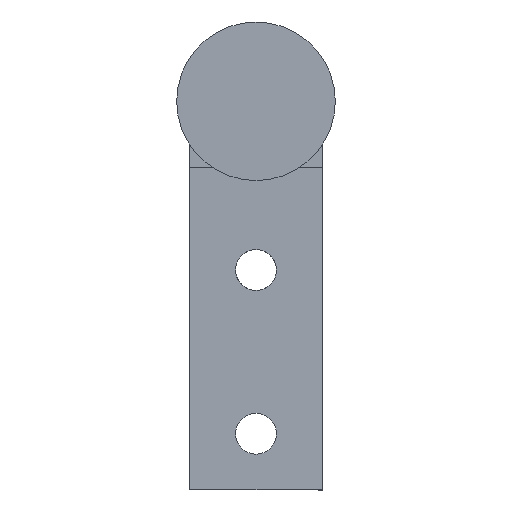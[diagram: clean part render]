
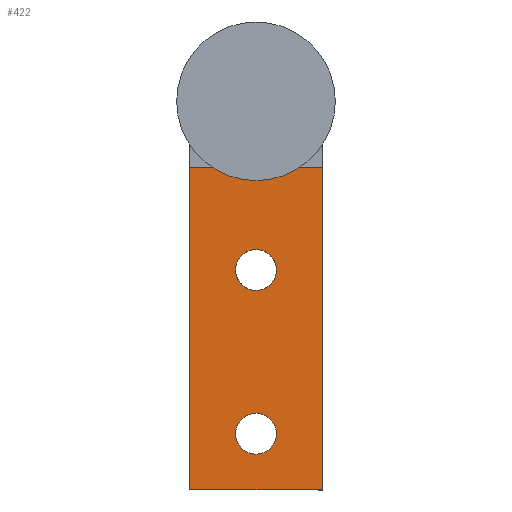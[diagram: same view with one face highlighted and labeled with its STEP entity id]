
A CAD part, front view. The second image highlights one B-rep face of the part: STEP entity #422.
In plain terms, the highlighted planar face has unit normal (0, -1, 0).
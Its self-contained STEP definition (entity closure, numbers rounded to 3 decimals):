
#13 = CIRCLE ( 'NONE', #330, 2. ) ;
#19 = CIRCLE ( 'NONE', #269, 2. ) ;
#25 = VECTOR ( 'NONE', #662, 1000. ) ;
#26 = LINE ( 'NONE', #670, #25 ) ;
#28 = LINE ( 'NONE', #720, #73 ) ;
#36 = VECTOR ( 'NONE', #440, 1000. ) ;
#37 = LINE ( 'NONE', #474, #36 ) ;
#47 = LINE ( 'NONE', #541, #67 ) ;
#67 = VECTOR ( 'NONE', #524, 1000. ) ;
#71 = CIRCLE ( 'NONE', #273, 2. ) ;
#73 = VECTOR ( 'NONE', #674, 1000. ) ;
#115 = CARTESIAN_POINT ( 'NONE',  ( -6.5, 289.8, -6.5 ) ) ;
#125 = CARTESIAN_POINT ( 'NONE',  ( 2., 289.8, -16.5 ) ) ;
#137 = VERTEX_POINT ( 'NONE', #115 ) ;
#138 = CARTESIAN_POINT ( 'NONE',  ( 2., 289.8, -32.5 ) ) ;
#148 = VERTEX_POINT ( 'NONE', #182 ) ;
#151 = VERTEX_POINT ( 'NONE', #175 ) ;
#152 = VERTEX_POINT ( 'NONE', #138 ) ;
#153 = VERTEX_POINT ( 'NONE', #125 ) ;
#156 = VERTEX_POINT ( 'NONE', #165 ) ;
#157 = VERTEX_POINT ( 'NONE', #171 ) ;
#158 = VERTEX_POINT ( 'NONE', #168 ) ;
#165 = CARTESIAN_POINT ( 'NONE',  ( 6.5, 289.8, -6.5 ) ) ;
#168 = CARTESIAN_POINT ( 'NONE',  ( 6.5, 289.8, -38. ) ) ;
#171 = CARTESIAN_POINT ( 'NONE',  ( -6.5, 289.8, -38. ) ) ;
#175 = CARTESIAN_POINT ( 'NONE',  ( -2., 289.8, -32.5 ) ) ;
#182 = CARTESIAN_POINT ( 'NONE',  ( -2., 289.8, -16.5 ) ) ;
#196 = FACE_BOUND ( 'NONE', #751, .T. ) ;
#210 = CIRCLE ( 'NONE', #493, 2. ) ;
#233 = FACE_OUTER_BOUND ( 'NONE', #407, .T. ) ;
#235 = FACE_BOUND ( 'NONE', #409, .T. ) ;
#258 = EDGE_CURVE ( 'NONE', #152, #151, #71, .T. ) ;
#269 = AXIS2_PLACEMENT_3D ( 'NONE', #695, #633, #631 ) ;
#273 = AXIS2_PLACEMENT_3D ( 'NONE', #457, #460, #461 ) ;
#275 = EDGE_CURVE ( 'NONE', #158, #157, #47, .T. ) ;
#282 = EDGE_CURVE ( 'NONE', #158, #156, #37, .T. ) ;
#286 = EDGE_CURVE ( 'NONE', #156, #137, #28, .T. ) ;
#288 = EDGE_CURVE ( 'NONE', #157, #137, #26, .T. ) ;
#291 = EDGE_CURVE ( 'NONE', #153, #148, #19, .T. ) ;
#300 = EDGE_CURVE ( 'NONE', #148, #153, #13, .T. ) ;
#321 = EDGE_CURVE ( 'NONE', #151, #152, #210, .T. ) ;
#330 = AXIS2_PLACEMENT_3D ( 'NONE', #630, #596, #594 ) ;
#344 = ORIENTED_EDGE ( 'NONE', *, *, #282, .T. ) ;
#345 = ORIENTED_EDGE ( 'NONE', *, *, #275, .F. ) ;
#346 = ORIENTED_EDGE ( 'NONE', *, *, #288, .F. ) ;
#347 = ORIENTED_EDGE ( 'NONE', *, *, #286, .T. ) ;
#348 = ORIENTED_EDGE ( 'NONE', *, *, #258, .F. ) ;
#349 = ORIENTED_EDGE ( 'NONE', *, *, #321, .F. ) ;
#350 = ORIENTED_EDGE ( 'NONE', *, *, #291, .F. ) ;
#351 = ORIENTED_EDGE ( 'NONE', *, *, #300, .F. ) ;
#407 = EDGE_LOOP ( 'NONE', ( #347, #346, #345, #344 ) ) ;
#409 = EDGE_LOOP ( 'NONE', ( #349, #348 ) ) ;
#422 = ADVANCED_FACE ( 'NONE', ( #196, #235, #233 ), #660, .T. ) ;
#440 = DIRECTION ( 'NONE',  ( 0., 0., 1. ) ) ;
#457 = CARTESIAN_POINT ( 'NONE',  ( 0., 289.8, -32.5 ) ) ;
#460 = DIRECTION ( 'NONE',  ( 0., -1., 0. ) ) ;
#461 = DIRECTION ( 'NONE',  ( -1., 0., 0. ) ) ;
#474 = CARTESIAN_POINT ( 'NONE',  ( 6.5, 289.8, -38. ) ) ;
#493 = AXIS2_PLACEMENT_3D ( 'NONE', #721, #710, #709 ) ;
#504 = AXIS2_PLACEMENT_3D ( 'NONE', #645, #644, #643 ) ;
#524 = DIRECTION ( 'NONE',  ( -1., 0., 0. ) ) ;
#541 = CARTESIAN_POINT ( 'NONE',  ( 6.5, 289.8, -38. ) ) ;
#594 = DIRECTION ( 'NONE',  ( -1., 0., 0. ) ) ;
#596 = DIRECTION ( 'NONE',  ( 0., -1., 0. ) ) ;
#630 = CARTESIAN_POINT ( 'NONE',  ( 0., 289.8, -16.5 ) ) ;
#631 = DIRECTION ( 'NONE',  ( -1., 0., 0. ) ) ;
#633 = DIRECTION ( 'NONE',  ( 0., -1., 0. ) ) ;
#643 = DIRECTION ( 'NONE',  ( -1., 0., 0. ) ) ;
#644 = DIRECTION ( 'NONE',  ( 0., -1., 0. ) ) ;
#645 = CARTESIAN_POINT ( 'NONE',  ( 6.5, 289.8, -38. ) ) ;
#660 = PLANE ( 'NONE',  #504 ) ;
#662 = DIRECTION ( 'NONE',  ( 0., 0., 1. ) ) ;
#670 = CARTESIAN_POINT ( 'NONE',  ( -6.5, 289.8, -38. ) ) ;
#674 = DIRECTION ( 'NONE',  ( -1., 0., 0. ) ) ;
#695 = CARTESIAN_POINT ( 'NONE',  ( 0., 289.8, -16.5 ) ) ;
#709 = DIRECTION ( 'NONE',  ( -1., 0., 0. ) ) ;
#710 = DIRECTION ( 'NONE',  ( 0., -1., 0. ) ) ;
#720 = CARTESIAN_POINT ( 'NONE',  ( 6.5, 289.8, -6.5 ) ) ;
#721 = CARTESIAN_POINT ( 'NONE',  ( 0., 289.8, -32.5 ) ) ;
#751 = EDGE_LOOP ( 'NONE', ( #351, #350 ) ) ;
